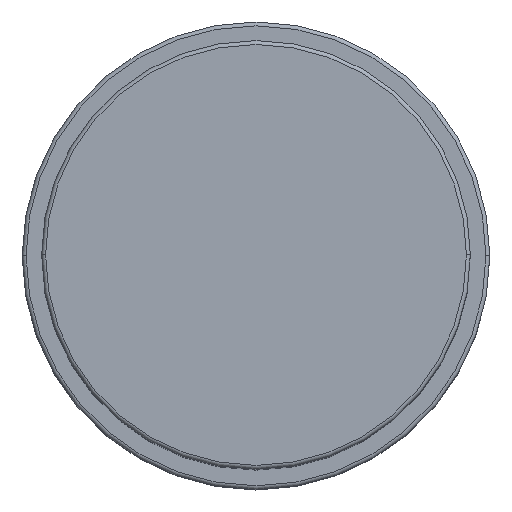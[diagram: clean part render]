
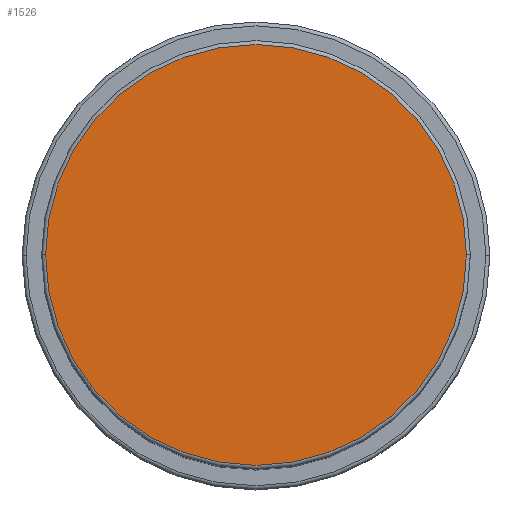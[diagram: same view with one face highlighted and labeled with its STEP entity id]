
A CAD part, top view. The second image highlights one B-rep face of the part: STEP entity #1526.
In plain terms, the highlighted planar face has unit normal (0, 0, 1).
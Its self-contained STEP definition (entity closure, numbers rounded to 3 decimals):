
#4 = AXIS2_PLACEMENT_3D ( 'NONE', #226, #634, #1166 ) ;
#30 = FACE_OUTER_BOUND ( 'NONE', #1680, .T. ) ;
#41 = DIRECTION ( 'NONE',  ( 0., 0., 1. ) ) ;
#119 = ORIENTED_EDGE ( 'NONE', *, *, #1407, .T. ) ;
#194 = CIRCLE ( 'NONE', #356, 27. ) ;
#226 = CARTESIAN_POINT ( 'NONE',  ( 0., 0., 91. ) ) ;
#356 = AXIS2_PLACEMENT_3D ( 'NONE', #571, #41, #816 ) ;
#511 = AXIS2_PLACEMENT_3D ( 'NONE', #1233, #688, #667 ) ;
#571 = CARTESIAN_POINT ( 'NONE',  ( 0., 0., 91. ) ) ;
#634 = DIRECTION ( 'NONE',  ( 0., 0., 1. ) ) ;
#667 = DIRECTION ( 'NONE',  ( 1., 0., 0. ) ) ;
#688 = DIRECTION ( 'NONE',  ( 0., 0., 1. ) ) ;
#816 = DIRECTION ( 'NONE',  ( 1., 0., 0. ) ) ;
#1038 = PLANE ( 'NONE',  #4 ) ;
#1056 = ORIENTED_EDGE ( 'NONE', *, *, #1681, .T. ) ;
#1116 = CARTESIAN_POINT ( 'NONE',  ( 27., 0., 91. ) ) ;
#1133 = VERTEX_POINT ( 'NONE', #1359 ) ;
#1166 = DIRECTION ( 'NONE',  ( 1., 0., 0. ) ) ;
#1217 = VERTEX_POINT ( 'NONE', #1116 ) ;
#1233 = CARTESIAN_POINT ( 'NONE',  ( 0., 0., 91. ) ) ;
#1359 = CARTESIAN_POINT ( 'NONE',  ( -27., 0., 91. ) ) ;
#1407 = EDGE_CURVE ( 'NONE', #1217, #1133, #1521, .T. ) ;
#1521 = CIRCLE ( 'NONE', #511, 27. ) ;
#1526 = ADVANCED_FACE ( 'NONE', ( #30 ), #1038, .T. ) ;
#1680 = EDGE_LOOP ( 'NONE', ( #119, #1056 ) ) ;
#1681 = EDGE_CURVE ( 'NONE', #1133, #1217, #194, .T. ) ;
